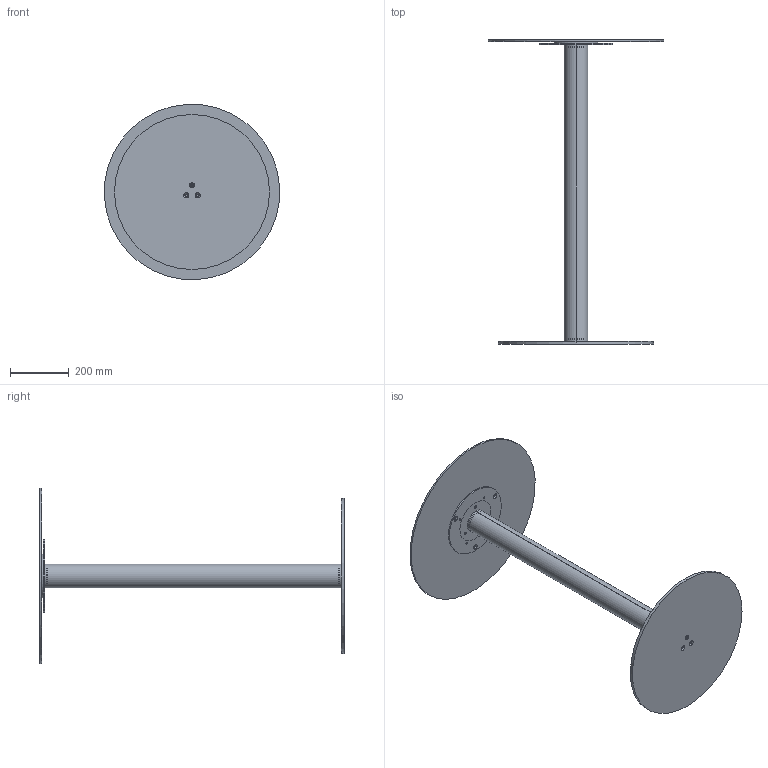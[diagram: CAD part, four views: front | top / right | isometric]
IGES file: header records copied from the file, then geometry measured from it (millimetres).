
Start section: SolidWorks IGES file using analytic representation for surfaces
Global section: file name: Y:\eforma\TECNICO\SOLIDWORKS\E-FORMA\5-TAVOLINI BISTRO\CILINDRO BISTRÒ H105\02 parts\CB10G.IGS; native system: SolidWorks 2022; preprocessor: SolidWorks 2022; author: eforma.tech; date: 240808.105250; units: millimetre
Bounding box: 598.71 x 1041 x 598.71 mm (x, y, z)
Volume: 4871831.1 mm3; surface area: 1731698.2 mm2
Topology: 8 solids, 8 shells, 126 faces, 298 edges, 188 vertices
Faces by surface type: revolution 110, plane 16
